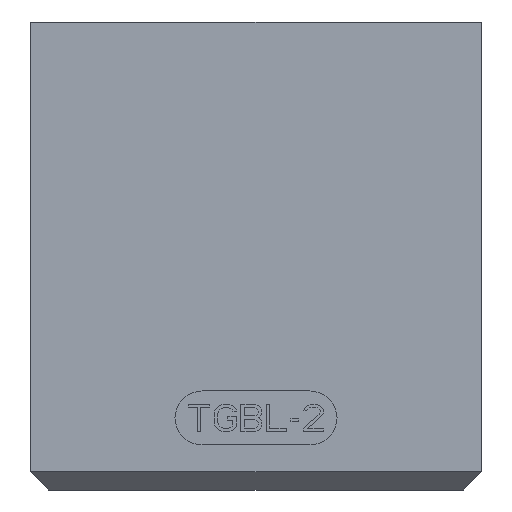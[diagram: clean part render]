
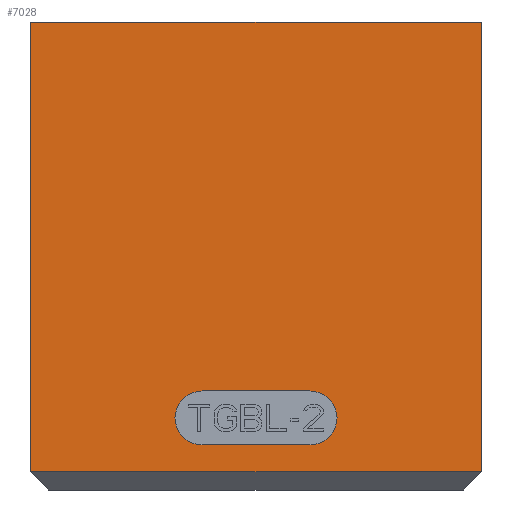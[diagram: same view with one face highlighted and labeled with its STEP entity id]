
A CAD part, front view. The second image highlights one B-rep face of the part: STEP entity #7028.
In plain terms, the highlighted planar face has unit normal (0, -1, 0).
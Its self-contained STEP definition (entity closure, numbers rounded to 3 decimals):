
#699=DIRECTION('',(-1.,0.,0.));
#700=VECTOR('',#699,25.);
#701=CARTESIAN_POINT('',(19.5,-5.,3.));
#702=LINE('',#701,#700);
#869=DIRECTION('',(0.,0.,-1.));
#870=VECTOR('',#869,25.);
#871=CARTESIAN_POINT('',(-5.5,-5.,3.));
#872=LINE('',#871,#870);
#897=DIRECTION('',(1.,0.,0.));
#898=VECTOR('',#897,25.);
#899=CARTESIAN_POINT('',(-5.5,-5.,-22.));
#900=LINE('',#899,#898);
#904=DIRECTION('',(0.,0.,-1.));
#905=VECTOR('',#904,25.);
#906=CARTESIAN_POINT('',(19.5,-5.,3.));
#907=LINE('',#906,#905);
#911=CARTESIAN_POINT('',(4.,-5.,-19.));
#912=DIRECTION('',(0.,-1.,0.));
#913=DIRECTION('',(0.,0.,1.));
#914=AXIS2_PLACEMENT_3D('',#911,#912,#913);
#919=CARTESIAN_POINT('',(4.,-5.,-19.));
#920=DIRECTION('',(0.,-1.,0.));
#921=DIRECTION('',(-1.,0.,0.));
#922=AXIS2_PLACEMENT_3D('',#919,#920,#921);
#927=CARTESIAN_POINT('',(10.,-5.,-19.));
#928=DIRECTION('',(0.,-1.,0.));
#929=DIRECTION('',(0.,0.,-1.));
#930=AXIS2_PLACEMENT_3D('',#927,#928,#929);
#935=CARTESIAN_POINT('',(10.,-5.,-19.));
#936=DIRECTION('',(0.,-1.,0.));
#937=DIRECTION('',(1.,0.,0.));
#938=AXIS2_PLACEMENT_3D('',#935,#936,#937);
#957=DIRECTION('',(1.,0.,0.));
#958=VECTOR('',#957,6.);
#959=CARTESIAN_POINT('',(4.,-5.,-17.5));
#960=LINE('',#959,#958);
#978=DIRECTION('',(-1.,0.,0.));
#979=VECTOR('',#978,6.);
#980=CARTESIAN_POINT('',(10.,-5.,-20.5));
#981=LINE('',#980,#979);
#4573=CARTESIAN_POINT('',(19.5,-5.,3.));
#4574=VERTEX_POINT('',#4573);
#4575=CARTESIAN_POINT('',(-5.5,-5.,3.));
#4576=VERTEX_POINT('',#4575);
#4581=CARTESIAN_POINT('',(19.5,-5.,-22.));
#4583=VERTEX_POINT('',#4581);
#4607=CARTESIAN_POINT('',(-5.5,-5.,-22.));
#4608=VERTEX_POINT('',#4607);
#4609=CARTESIAN_POINT('',(4.,-5.,-17.5));
#4610=CARTESIAN_POINT('',(2.5,-5.,-19.));
#4611=VERTEX_POINT('',#4609);
#4612=VERTEX_POINT('',#4610);
#4613=CARTESIAN_POINT('',(4.,-5.,-20.5));
#4614=VERTEX_POINT('',#4613);
#4615=CARTESIAN_POINT('',(10.,-5.,-20.5));
#4616=VERTEX_POINT('',#4615);
#4617=CARTESIAN_POINT('',(11.5,-5.,-19.));
#4618=VERTEX_POINT('',#4617);
#4619=CARTESIAN_POINT('',(10.,-5.,-17.5));
#4620=VERTEX_POINT('',#4619);
#7003=CARTESIAN_POINT('',(-5.5,-5.,-23.));
#7004=DIRECTION('',(0.,-1.,0.));
#7005=DIRECTION('',(1.,0.,0.));
#7006=AXIS2_PLACEMENT_3D('',#7003,#7004,#7005);
#7007=PLANE('',#7006);
#7008=ORIENTED_EDGE('',*,*,#6997,.F.);
#7009=ORIENTED_EDGE('',*,*,#6972,.F.);
#7010=ORIENTED_EDGE('',*,*,#6858,.F.);
#7011=ORIENTED_EDGE('',*,*,#6880,.T.);
#7012=EDGE_LOOP('',(#7008,#7009,#7010,#7011));
#7013=FACE_OUTER_BOUND('',#7012,.F.);
#7015=ORIENTED_EDGE('',*,*,#7014,.T.);
#7017=ORIENTED_EDGE('',*,*,#7016,.T.);
#7019=ORIENTED_EDGE('',*,*,#7018,.F.);
#7021=ORIENTED_EDGE('',*,*,#7020,.T.);
#7023=ORIENTED_EDGE('',*,*,#7022,.T.);
#7025=ORIENTED_EDGE('',*,*,#7024,.F.);
#7026=EDGE_LOOP('',(#7015,#7017,#7019,#7021,#7023,#7025));
#7027=FACE_BOUND('',#7026,.F.);
#915=CIRCLE('',#914,1.5);
#923=CIRCLE('',#922,1.5);
#931=CIRCLE('',#930,1.5);
#939=CIRCLE('',#938,1.5);
#6858=EDGE_CURVE('',#4574,#4576,#702,.T.);
#6880=EDGE_CURVE('',#4574,#4583,#907,.T.);
#6972=EDGE_CURVE('',#4576,#4608,#872,.T.);
#6997=EDGE_CURVE('',#4608,#4583,#900,.T.);
#7014=EDGE_CURVE('',#4611,#4612,#915,.T.);
#7016=EDGE_CURVE('',#4612,#4614,#923,.T.);
#7018=EDGE_CURVE('',#4616,#4614,#981,.T.);
#7020=EDGE_CURVE('',#4616,#4618,#931,.T.);
#7022=EDGE_CURVE('',#4618,#4620,#939,.T.);
#7024=EDGE_CURVE('',#4611,#4620,#960,.T.);
#7028=ADVANCED_FACE('',(#7013,#7027),#7007,.T.);
